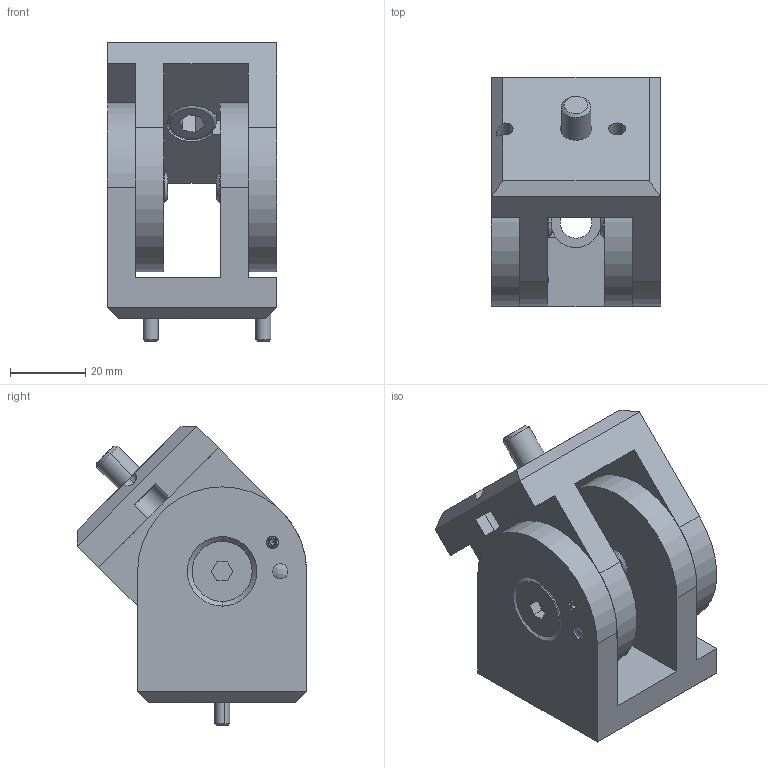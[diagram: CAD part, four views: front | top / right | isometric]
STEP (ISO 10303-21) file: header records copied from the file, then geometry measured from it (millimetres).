
FILE_DESCRIPTION (( 'STEP AP214' ), '1' );
FILE_NAME ('Articulation 45x45.STEP', '2015-11-02T08:53:43', ( 'temp' ), ( 'Hewlett-Packard Company' ), 'SwSTEP 2.0', 'SolidWorks 2014', '' );
FILE_SCHEMA (( 'AUTOMOTIVE_DESIGN' ));
Length unit declared in the file: millimetre
Products named in the file (7): VIS CHC M8X12; Vis FHC_DIN7991 M8x16; ACC-01-001; Articulation 45x45; vis_pointeau_M4x6_EM_642053X6; Vis CHC M3x12_Vis CHC M 4-12; GOUP_D4X14_A2
Assembly tree (9 placements, depth 2):
  Articulation 45x45
    ACC-01-001  x2
    Vis FHC_DIN7991 M8x16  x2
    VIS CHC M8X12
    GOUP_D4X14_A2
    Vis CHC M3x12_Vis CHC M 4-12  x2
    vis_pointeau_M4x6_EM_642053X6
Bounding box: 45 x 61.04 x 79.54 mm (x, y, z)
Volume: 96815.1 mm3; surface area: 33764.5 mm2
Topology: 9 solids, 9 shells, 211 faces, 500 edges, 310 vertices
Faces by surface type: plane 105, cylinder 66, cone 32, torus 6, bspline 2
Entity records: 4509 total; most frequent: CARTESIAN_POINT 793, DIRECTION 659, ORIENTED_EDGE 602, EDGE_CURVE 301, AXIS2_PLACEMENT_3D 240, VERTEX_POINT 186, LINE 179, VECTOR 179
